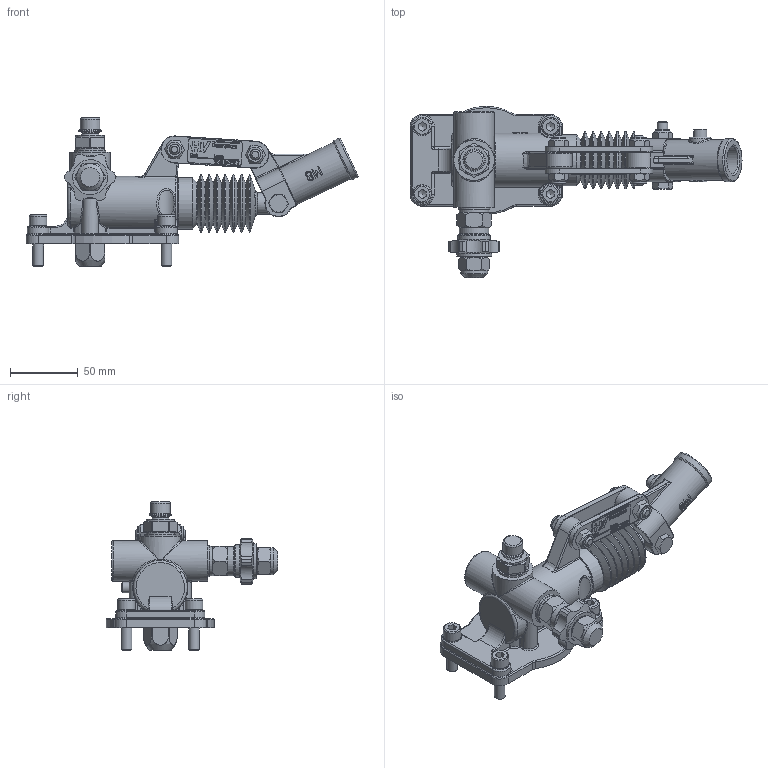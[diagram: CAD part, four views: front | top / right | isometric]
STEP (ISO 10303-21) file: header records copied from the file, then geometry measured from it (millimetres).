
FILE_DESCRIPTION((''),'2;1');
FILE_NAME('G:\HV_HYDRAULIC\AZIENDA_HV_HYDRAULIC\ARCHIVIO_DISEGNI\5_PRODOTTI_FINITI\1_POMPE_MANUALI\6065_PMSE_8\6065.0041_PMSE_8_byA-s_(HV)\6065.0041.stp','2024-03-25T16:03:54',('christian.scardovi'),(''),'Autodesk Inventor 2013','Autodesk Inventor 2013','');
FILE_SCHEMA(('AUTOMOTIVE_DESIGN { 1 0 10303 214 1 1 1 1 }'));
Length unit declared in the file: millimetre
Products named in the file (1): 6065.0041
Bounding box: 245.91 x 127 x 110 mm (x, y, z)
Volume: 369090.4 mm3; surface area: 94676.3 mm2
Topology: 1 solids, 1 shells, 1382 faces, 3433 edges, 2135 vertices
Faces by surface type: plane 625, cylinder 265, bspline 212, cone 130, torus 126, sphere 24
Full cylindrical faces by diameter (mm): 5 x7, 6 x1, 6.5 x1, 8 x7, 9 x2, 9.5 x2, 10 x3, 11.05 x5, 11.6 x1, 12 x4, 13 x4, 13.5 x1, 14 x4, 14.5 x1, 14.95 x5, 16 x2, 16.5 x1, 16.6 x1, 20 x3, 20.5 x2, 21 x2, 21.8 x2, 22 x2, 23 x3, 24 x1, 26 x1, 30 x4, 32 x1, 38.004 x1
Entity records: 44104 total; most frequent: CARTESIAN_POINT 12618, ORIENTED_EDGE 6328, DIRECTION 5679, EDGE_CURVE 3164, VERTEX_POINT 2072, AXIS2_PLACEMENT_3D 2033, EDGE_LOOP 1684, VECTOR 1613
